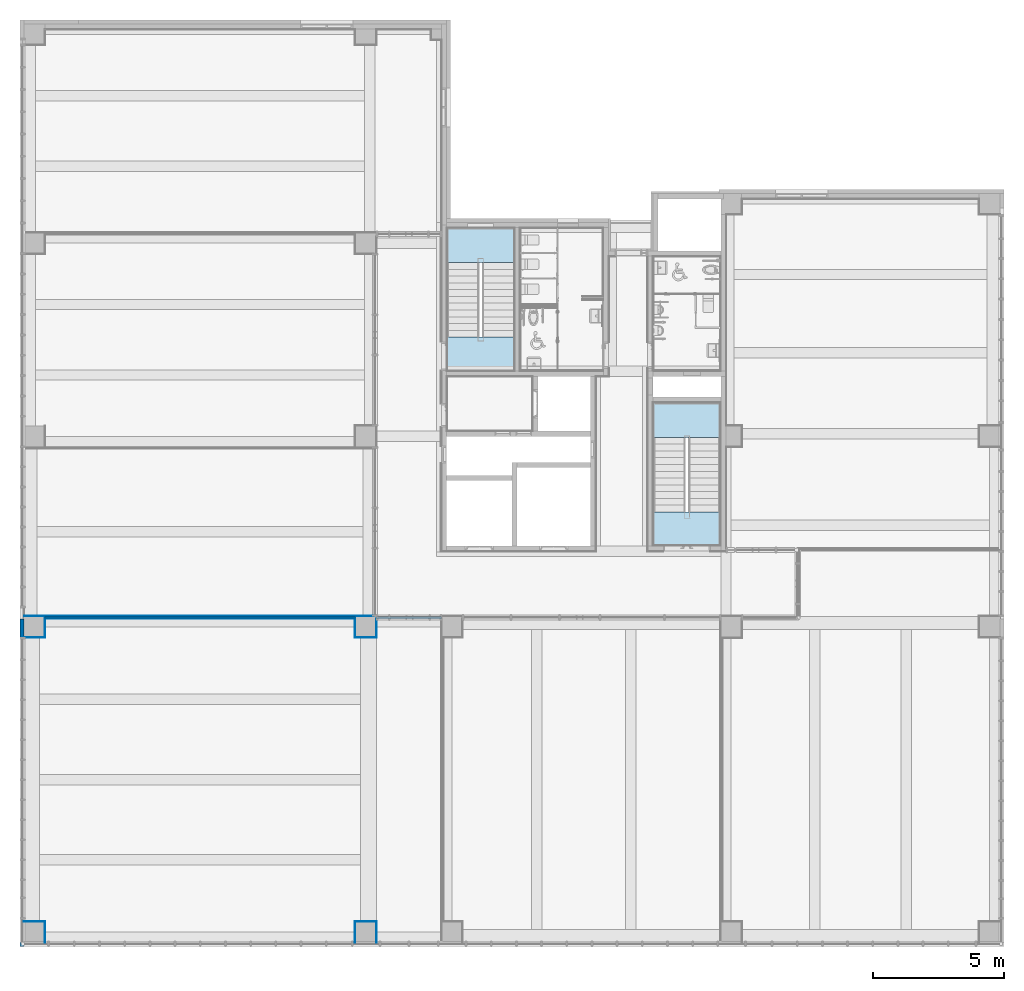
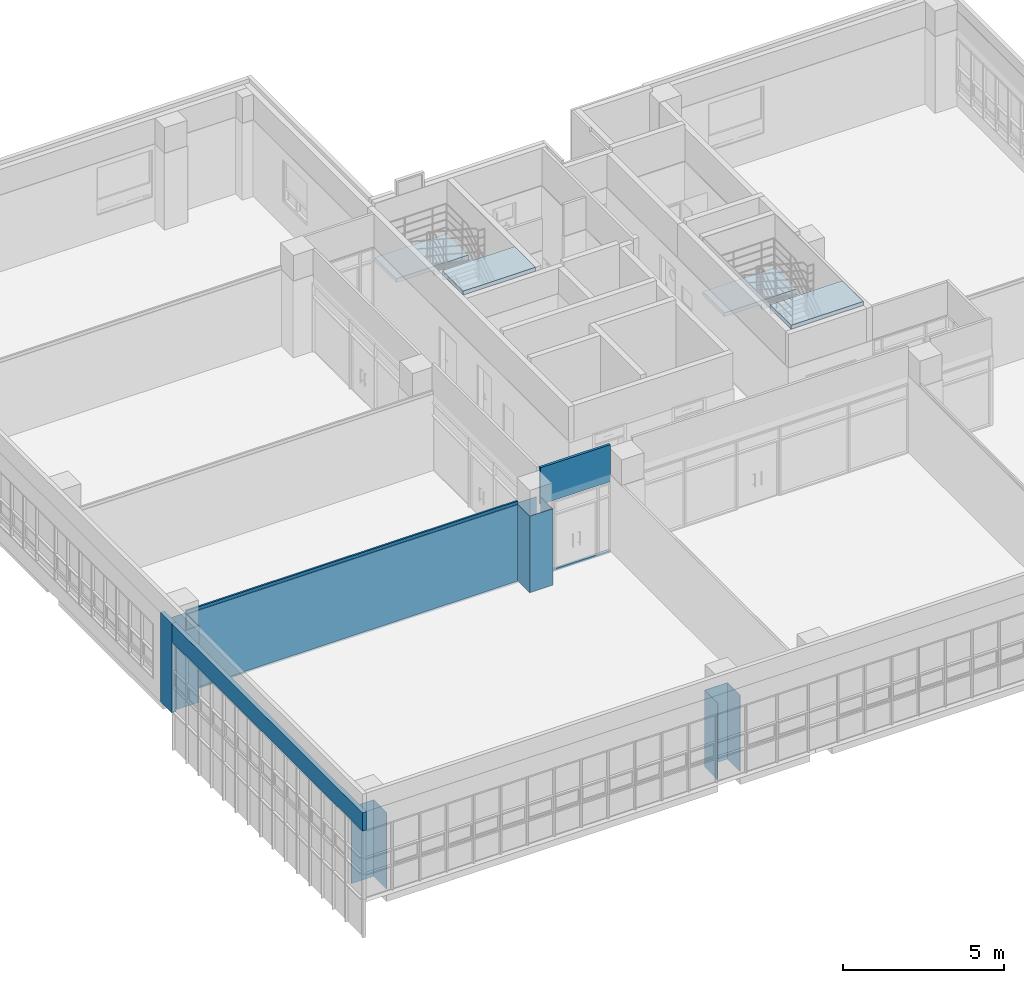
# One storey, part 42 of 81: 16 walls, 4 slabs, 1 opening, 2 elements without a shape of their own.
"""IFC2X3 building model written with IfcOpenShell, lengths in millimetres."""

from ifc_helpers import new_model, entity, si_unit, converted_unit, derived_unit, direction, frame, frame_2d, origin, place, context, subcontext, project, spatial, rectangle, extrude, faceted_brep, material, layer, layer_set, layer_usage, type_object, element, aggregate, save


model = new_model("IFC2X3")

# Units and contexts
model_context = context("Model", 3, precision=0.01, world=origin(), true_north=direction((6.123031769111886e-17, 1.0)))
body_context = subcontext(model_context, "Body", "Model", "MODEL_VIEW")
ifc_project = project(units=[si_unit("LENGTHUNIT", "METRE", prefix="MILLI"), si_unit("AREAUNIT", "SQUARE_METRE"), si_unit("VOLUMEUNIT", "CUBIC_METRE"), converted_unit("PLANEANGLEUNIT", "DEGREE", entity("IfcRatioMeasure", 0.017453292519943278), si_unit("PLANEANGLEUNIT", "RADIAN"), dimensions=[0, 0, 0, 0, 0, 0, 0]), si_unit("MASSUNIT", "GRAM", prefix="KILO"), derived_unit("MASSDENSITYUNIT", [(si_unit("MASSUNIT", "GRAM", prefix="KILO"), 1), (si_unit("LENGTHUNIT", "METRE"), -3)]), derived_unit("MOMENTOFINERTIAUNIT", [(si_unit("LENGTHUNIT", "METRE"), 4)]), si_unit("TIMEUNIT", "SECOND"), si_unit("FREQUENCYUNIT", "HERTZ"), si_unit("THERMODYNAMICTEMPERATUREUNIT", "DEGREE_CELSIUS"), derived_unit("THERMALTRANSMITTANCEUNIT", [(si_unit("MASSUNIT", "GRAM", prefix="KILO"), 1), (si_unit("THERMODYNAMICTEMPERATUREUNIT", "KELVIN"), -1), (si_unit("TIMEUNIT", "SECOND"), -3)]), derived_unit("VOLUMETRICFLOWRATEUNIT", [(si_unit("LENGTHUNIT", "METRE"), 3), (si_unit("TIMEUNIT", "SECOND"), -1)]), derived_unit("MASSFLOWRATEUNIT", [(si_unit("MASSUNIT", "GRAM", prefix="KILO"), 1), (si_unit("TIMEUNIT", "SECOND"), -1)]), derived_unit("ROTATIONALFREQUENCYUNIT", [(si_unit("TIMEUNIT", "SECOND"), -1)]), si_unit("ELECTRICCURRENTUNIT", "AMPERE"), si_unit("ELECTRICVOLTAGEUNIT", "VOLT"), si_unit("POWERUNIT", "WATT"), si_unit("FORCEUNIT", "NEWTON", prefix="KILO"), si_unit("ILLUMINANCEUNIT", "LUX"), si_unit("LUMINOUSFLUXUNIT", "LUMEN"), si_unit("LUMINOUSINTENSITYUNIT", "CANDELA"), derived_unit("USERDEFINED", [(si_unit("MASSUNIT", "GRAM", prefix="KILO"), -1), (si_unit("LENGTHUNIT", "METRE"), -2), (si_unit("TIMEUNIT", "SECOND"), 3), (si_unit("LUMINOUSFLUXUNIT", "LUMEN"), 1)]), derived_unit("SOUNDPOWERUNIT", [(si_unit("MASSUNIT", "GRAM", prefix="KILO"), 1), (si_unit("LENGTHUNIT", "METRE"), 2), (si_unit("TIMEUNIT", "SECOND"), -3)]), derived_unit("SOUNDPRESSUREUNIT", [(si_unit("MASSUNIT", "GRAM", prefix="KILO"), 1), (si_unit("LENGTHUNIT", "METRE"), -1), (si_unit("TIMEUNIT", "SECOND"), -2)]), derived_unit("LINEARVELOCITYUNIT", [(si_unit("LENGTHUNIT", "METRE"), 1), (si_unit("TIMEUNIT", "SECOND"), -1)]), si_unit("PRESSUREUNIT", "PASCAL"), derived_unit("USERDEFINED", [(si_unit("LENGTHUNIT", "METRE"), -2), (si_unit("MASSUNIT", "GRAM", prefix="KILO"), 1), (si_unit("TIMEUNIT", "SECOND"), -2)]), derived_unit("LINEARFORCEUNIT", [(si_unit("MASSUNIT", "GRAM", prefix="KILO"), 1), (si_unit("LENGTHUNIT", "METRE"), 1), (si_unit("TIMEUNIT", "SECOND"), -2), (si_unit("LENGTHUNIT", "METRE"), -1)]), derived_unit("PLANARFORCEUNIT", [(si_unit("MASSUNIT", "GRAM", prefix="KILO"), 1), (si_unit("LENGTHUNIT", "METRE"), 1), (si_unit("TIMEUNIT", "SECOND"), -2), (si_unit("LENGTHUNIT", "METRE"), -2)])], contexts=[model_context])

# Site, building, storey
site_placement = place(None, frame((-14167.972527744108, -657.2125860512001, 0.0)))
site = spatial("IfcSite", under=ifc_project, at=site_placement, Name="Default", CompositionType="ELEMENT")
building_placement = place(site_placement, origin())
building = spatial("IfcBuilding", under=site, at=building_placement, Name="Sample Building", CompositionType="ELEMENT")
storey_placement = place(building_placement, frame((0.0, 0.0, 13400.0)))
storey = spatial("IfcBuildingStorey", under=building, at=storey_placement, Name="지상 4층", CompositionType="ELEMENT", Elevation=13400.00000000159)

# Stair, slabs
stair_1_placement = place(storey_placement, origin())
stair_1 = element("IfcStair", 1, at=stair_1_placement, inside=storey, Name="현장타설 계단:계단", ObjectType="현장타설 계단:ST111-철근콘크리트구조 계단 (U형)", ShapeType="NOTDEFINED")
ifc_material_1 = material(Name="KBIMS-콘크리트")
slab_type_1 = type_object("IfcSlabType", Name="일체형 계단참:일체형 계단참 150mm_철근콘크리트", PredefinedType="LANDING")
slab_1_placement = place(stair_1_placement, frame((30266.12581445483, 26617.1433876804, 0.0)))
slab_1 = element("IfcSlab", 2, at=slab_1_placement, type_object=slab_type_1, material=ifc_material_1, Name="현장타설 계단:계단:5315106 Landing 1", ObjectType="일체형 계단참:일체형 계단참 150mm_철근콘크리트", PredefinedType="LANDING", context=body_context, shape_type="Brep", body=[
    faceted_brep([(1349.9912185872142, 0.03440560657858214, 2050.0), (2600.0, 0.03440560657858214, 2050.0), (2600.0, 304.9038523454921, 2050.0), (2600.0, 1340.0689203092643, 2050.0), (0.0, 1340.0689203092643, 2050.0), (0.0, 0.0, 2050.0), (1249.9990872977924, 0.0, 2050.0), (2600.0, 1340.0689203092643, 1900.0), (0.0, 1340.0689203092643, 1900.0), (0.0, 0.0, 1900.0), (1249.9990872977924, 0.0, 1900.0), (1349.9912185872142, 0.03440560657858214, 1900.0), (2600.0, 304.9038523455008, 1900.0), (1349.9912185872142, 304.9038523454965, 1900.0), (2600.0, 0.03440560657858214, 1699.6851396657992), (1349.9912185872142, 0.03440560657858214, 1699.6851396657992), (1349.9912185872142, 0.03440560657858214, 1879.1666671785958), (2600.0, 0.03440560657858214, 1879.1666671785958)], [[[0, 1, 2, 3, 4, 5, 6]], [[4, 3, 7, 8]], [[5, 4, 8, 9]], [[0, 6, 10, 11]], [[12, 13, 11, 10, 9, 8, 7]], [[13, 12, 14, 15]], [[11, 13, 15, 16]], [[1, 0, 11, 16, 15, 14, 17]], [[1, 17, 14, 12, 7, 3, 2]], [[6, 5, 9, 10]]]),
])
slab_type_2 = type_object("IfcSlabType", Name="일체형 계단참:일체형 계단참 150mm_철근콘크리트", PredefinedType="LANDING")
slab_2_placement = place(stair_1_placement, frame((30266.125814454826, 22457.21245198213, 0.0)))
slab_2 = element("IfcSlab", 3, at=slab_2_placement, type_object=slab_type_2, material=ifc_material_1, Name="현장타설 계단:계단:5315106 Landing 2", ObjectType="일체형 계단참:일체형 계단참 150mm_철근콘크리트", PredefinedType="LANDING", context=body_context, shape_type="Brep", body=[
    faceted_brep([(1249.9990872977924, 1299.9309356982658, 4100.0), (0.0, 1299.9309356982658, 4100.0), (0.0, 995.0614889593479, 4100.0), (0.0, 0.0, 4100.0), (2600.0, 0.0, 4100.0), (2600.0, 1299.9309356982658, 4100.0), (2600.0, 0.0, 3950.0), (2600.0, 1299.9309356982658, 3950.0), (0.0, 1299.9309356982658, 3929.1666677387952), (0.0, 1299.9309356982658, 3749.685140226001), (0.0, 995.0614889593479, 3950.0), (0.0, 0.0, 3950.0), (1249.9990872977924, 995.0614889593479, 3950.0), (1249.9990872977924, 1299.9309356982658, 3950.0), (1249.9990872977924, 1299.9309356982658, 3929.1666677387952), (1249.9990872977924, 1299.9309356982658, 3749.6851402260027)], [[[0, 1, 2, 3, 4, 5]], [[5, 4, 6, 7]], [[1, 8, 9, 10, 11, 3, 2]], [[4, 3, 11, 6]], [[10, 12, 13, 7, 6, 11]], [[1, 0, 13, 14, 15, 9, 8]], [[0, 5, 7, 13]], [[12, 10, 9, 15]], [[13, 12, 15, 14]]]),
])
aggregate(stair_1, [slab_1, slab_2])

stair_2_placement = place(storey_placement, origin())
stair_2 = element("IfcStair", 4, at=stair_2_placement, inside=storey, Name="현장타설 계단:계단", ObjectType="현장타설 계단:ST111-철근콘크리트구조 계단 (U형)", ShapeType="NOTDEFINED")
slab_type_3 = type_object("IfcSlabType", Name="일체형 계단참:일체형 계단참 150mm_철근콘크리트", PredefinedType="LANDING")
slab_3_placement = place(stair_2_placement, frame((38165.986986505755, 19917.143384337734, 0.0)))
slab_3 = element("IfcSlab", 5, at=slab_3_placement, type_object=slab_type_3, material=ifc_material_1, Name="현장타설 계단:계단:5315424 Landing 1", ObjectType="일체형 계단참:일체형 계단참 150mm_철근콘크리트", PredefinedType="LANDING", context=body_context, shape_type="Brep", body=[
    faceted_brep([(1349.9912185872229, 0.034405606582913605, 2050.0), (2600.0, 0.034405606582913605, 2050.0), (2600.0, 304.9038523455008, 2050.0), (2600.0, 1340.0689203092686, 2050.0), (0.0, 1340.0689203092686, 2050.0), (0.0, 0.0, 2050.0), (1249.9990872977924, 0.0, 2050.0), (2600.0, 1340.0689203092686, 1900.0), (0.0, 1340.0689203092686, 1900.0), (0.0, 0.0, 1900.0), (1249.9990872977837, 0.0, 1900.0), (1349.9912185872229, 0.034405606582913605, 1900.0), (2600.0, 304.90385234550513, 1900.0), (1349.9912185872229, 304.9038523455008, 1900.0), (2600.0, 0.034405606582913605, 1699.6851396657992), (1349.9912185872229, 0.034405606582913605, 1699.6851396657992), (1349.9912185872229, 0.034405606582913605, 1879.1666671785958), (2600.0, 0.034405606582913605, 1879.1666671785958)], [[[0, 1, 2, 3, 4, 5, 6]], [[4, 3, 7, 8]], [[5, 4, 8, 9]], [[0, 6, 10, 11]], [[12, 13, 11, 10, 9, 8, 7]], [[13, 12, 14, 15]], [[11, 13, 15, 16]], [[1, 0, 11, 16, 15, 14, 17]], [[1, 17, 14, 12, 7, 3, 2]], [[6, 5, 9, 10]]]),
])
slab_type_4 = type_object("IfcSlabType", Name="일체형 계단참:일체형 계단참 150mm_철근콘크리트", PredefinedType="LANDING")
slab_4_placement = place(stair_2_placement, frame((38165.986986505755, 15757.21244863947, 0.0)))
slab_4 = element("IfcSlab", 6, at=slab_4_placement, type_object=slab_type_4, material=ifc_material_1, Name="현장타설 계단:계단:5315424 Landing 2", ObjectType="일체형 계단참:일체형 계단참 150mm_철근콘크리트", PredefinedType="LANDING", context=body_context, shape_type="Brep", body=[
    faceted_brep([(1249.9990872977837, 1299.9309356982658, 4100.0), (0.0, 1299.9309356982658, 4100.0), (0.0, 995.0614889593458, 4100.0), (0.0, 0.0, 4100.0), (2600.0, 0.0, 4100.0), (2600.0, 1299.9309356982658, 4100.0), (2600.0, 0.0, 3950.0), (2600.0, 1299.9309356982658, 3950.0), (0.0, 1299.9309356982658, 3929.1666677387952), (0.0, 1299.9309356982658, 3749.6851402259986), (0.0, 995.0614889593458, 3950.0), (0.0, 0.0, 3950.0), (1249.9990872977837, 995.0614889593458, 3950.0), (1249.9990872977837, 1299.9309356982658, 3950.0), (1249.9990872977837, 1299.9309356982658, 3929.1666677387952), (1249.9990872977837, 1299.9309356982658, 3749.6851402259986)], [[[0, 1, 2, 3, 4, 5]], [[5, 4, 6, 7]], [[1, 8, 9, 10, 11, 3, 2]], [[4, 3, 11, 6]], [[10, 12, 13, 7, 6, 11]], [[1, 0, 13, 14, 15, 9, 8]], [[0, 5, 7, 13]], [[12, 10, 9, 15]], [[13, 12, 15, 14]]]),
])
aggregate(stair_2, [slab_3, slab_4])

# Walls
ifc_material_2 = material(Name="KBIMS-DRY WALL")
ifc_layer_1 = layer(ifc_material_2, 12.5)
ifc_material_3 = material(Name="KBIMS-경량철골벽틀")
ifc_layer_2 = layer(ifc_material_3, 50.0)
ifc_layer_set_1 = layer_set([ifc_layer_1, ifc_layer_2], Name="기본 벽:WA731-DRY WALL(C50, GS12.5mm) (1겹한면, GW50mm) 62.5mm")
ifc_layer_usage_1 = layer_usage(ifc_layer_set_1, "AXIS2", "NEGATIVE", 31.250000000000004)
wall_type_1 = type_object("IfcWallType", Name="기본 벽:WA731-DRY WALL(C50, GS12.5mm) (1겹한면, GW50mm) 62.5mm", PredefinedType="STANDARD", material=ifc_layer_set_1)
wall_1_placement = place(storey_placement, frame((14867.955105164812, 13025.961898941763, -2.297844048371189e-09)))
element("IfcWallStandardCase", 7, at=wall_1_placement, inside=storey, type_object=wall_type_1, material=ifc_layer_usage_1, Name="기본 벽:WA731-DRY WALL(C50, GS12.5mm) (1겹한면, GW50mm) 62.5mm", ObjectType="기본 벽:WA731-DRY WALL(C50, GS12.5mm) (1겹한면, GW50mm) 62.5mm", context=body_context, shape_type="SweptSolid", body=[
    extrude(rectangle(XDim=11900.000000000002, YDim=62.50000000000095, at=frame_2d((5950.000000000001, -1.0675904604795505e-12), x_axis=(-1.0, 0.0))), origin(), (0.0, 0.0, 1.0), 3100.000000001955),
])
ifc_material_4 = material(Name="WA785-금속외장패널")
ifc_layer_3 = layer(ifc_material_4, 25.0)
ifc_material_5 = material(Name="WA793-금속 긴결철물 벽")
ifc_layer_4 = layer(ifc_material_5, 75.0)
ifc_material_6 = material(Name="WA821-압출스티로폼 벽 (본드붙임, 비중0.03) 50mm")
ifc_layer_5 = layer(ifc_material_6, 50.0)
ifc_layer_set_2 = layer_set([ifc_layer_3, ifc_layer_4, ifc_layer_5], Name="기본 벽:A2-26-01A-압출스티로폼, 금속 긴결철물, 금속외장패널 (150mm)")
ifc_layer_usage_2 = layer_usage(ifc_layer_set_2, "AXIS2", "POSITIVE", -75.0)
wall_type_2 = type_object("IfcWallType", Name="기본 벽:A2-26-01A-압출스티로폼, 금속 긴결철물, 금속외장패널 (150mm)", PredefinedType="STANDARD", material=ifc_layer_set_2)
wall_2_placement = place(storey_placement, frame((13992.955105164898, 12257.212586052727, 2700.0), z_axis=(0.0, 0.0, 1.0), x_axis=(0.0, -1.0, 0.0)))
element("IfcWallStandardCase", 8, at=wall_2_placement, inside=storey, type_object=wall_type_2, material=ifc_layer_usage_2, Name="기본 벽:A2-26-01A-압출스티로폼, 금속 긴결철물, 금속외장패널 (150mm)", ObjectType="기본 벽:A2-26-01A-압출스티로폼, 금속 긴결철물, 금속외장패널 (150mm)", context=body_context, shape_type="SweptSolid", body=[
    extrude(rectangle(XDim=11850.000290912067, YDim=150.00000000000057, at=frame_2d((5925.000145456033, 2.3447910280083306e-13), x_axis=(-1.0, 0.0))), origin(), (0.0, 0.0, 1.0), 699.999999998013),
])
ifc_layer_usage_3 = layer_usage(ifc_layer_set_2, "AXIS2", "POSITIVE", -75.0)
wall_3_placement = place(storey_placement, frame((13992.955105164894, 12957.177624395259, 0.0), z_axis=(0.0, 0.0, 1.0), x_axis=(0.0, -1.0, 0.0)))
element("IfcWallStandardCase", 9, at=wall_3_placement, inside=storey, type_object=wall_type_2, material=ifc_layer_usage_3, Name="기본 벽:A2-26-01A-압출스티로폼, 금속 긴결철물, 금속외장패널 (150mm)", ObjectType="기본 벽:A2-26-01A-압출스티로폼, 금속 긴결철물, 금속외장패널 (150mm)", context=body_context, shape_type="SweptSolid", body=[
    extrude(rectangle(XDim=699.9650383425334, YDim=150.00000000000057, at=frame_2d((349.9825191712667, 5.186961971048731e-13), x_axis=(-1.0, 0.0))), origin(), (0.0, 0.0, 1.0), 3399.999999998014),
])

# Wall, opening
ifc_material_7 = material(Name="KBIMS-시멘트 벽돌")
ifc_layer_6 = layer(ifc_material_7, 90.0)
ifc_layer_set_3 = layer_set([ifc_layer_6], Name="기본 벽:WA211-시멘트벽돌(일반) 벽 (0.5B) 90mm")
ifc_layer_usage_4 = layer_usage(ifc_layer_set_3, "AXIS2", "POSITIVE", -45.0)
wall_type_3 = type_object("IfcWallType", Name="기본 벽:WA211-시멘트벽돌(일반) 벽 (0.5B) 90mm", PredefinedType="STANDARD", material=ifc_layer_set_3)
wall_4_placement = place(storey_placement, frame((30067.95511434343, 13012.212307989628, 0.0), z_axis=(0.0, 0.0, 1.0), x_axis=(-1.0, 0.0, 0.0)))
wall_4 = element("IfcWallStandardCase", 10, at=wall_4_placement, inside=storey, type_object=wall_type_3, material=ifc_layer_usage_4, Name="기본 벽:WA211-시멘트벽돌(일반) 벽 (0.5B) 90mm", ObjectType="기본 벽:WA211-시멘트벽돌(일반) 벽 (0.5B) 90mm", context=body_context, shape_type="SweptSolid", body=[
    extrude(rectangle(XDim=2500.034656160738, YDim=89.99999999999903, at=frame_2d((1250.017328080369, 1.0835776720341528e-12), x_axis=(-1.0, 0.0))), origin(), (0.0, 0.0, 1.0), 4099.999999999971),
])
opening_placement = place(wall_4_placement, origin())
element("IfcOpeningElement", 11, at=opening_placement, cuts=wall_4, Name="기본 벽:WA211-시멘트벽돌(일반) 벽 (0.5B) 90mm", ObjectType="Opening", context=body_context, shape_type="SweptSolid", body=[
    extrude(rectangle(XDim=2619.9999999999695, YDim=2500.034692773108, at=frame_2d((1.1368683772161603e-12, 0.0), x_axis=(1.0, 0.0))), frame((1250.0173463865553, -197.39999999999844, 1390.0), z_axis=(0.0, 1.0, 0.0), x_axis=(0.0, 0.0, 1.0)), (0.0, 0.0, 1.0), 394.79999999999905),
])

# Walls
ifc_material_8 = material(Name="WA611-수성페인트 (내부) 벽 (3회)")
ifc_layer_7 = layer(ifc_material_8, 1.0)
ifc_material_9 = material(Name="WA551-시멘트모르타르 (내부) 벽 18mm")
ifc_layer_8 = layer(ifc_material_9, 16.0)
ifc_material_10 = material(Name="WA555-콘크리트면정리 벽 (내부)")
ifc_layer_9 = layer(ifc_material_10, 1.0)
ifc_layer_set_4 = layer_set([ifc_layer_7, ifc_layer_8, ifc_layer_9], Name="기본 벽:A1-32-06A-콘크리트면정리, 시멘트모르타르(미장용), 수성페인트(내부) (18mm)")
ifc_layer_usage_5 = layer_usage(ifc_layer_set_4, "AXIS2", "POSITIVE", -9.000000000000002)
wall_type_4 = type_object("IfcWallType", Name="기본 벽:A1-32-06A-콘크리트면정리, 시멘트모르타르(미장용), 수성페인트(내부) (18mm)", PredefinedType="STANDARD", material=ifc_layer_set_4)
wall_5_placement = place(storey_placement, frame((27478.332260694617, 13066.21189894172, 80.0), z_axis=(0.0, 0.0, 1.0), x_axis=(-1.0, 0.0, 0.0)))
element("IfcWallStandardCase", 12, at=wall_5_placement, inside=storey, type_object=wall_type_4, material=ifc_layer_usage_5, Name="기본 벽:A1-32-06A-콘크리트면정리, 시멘트모르타르(미장용), 수성페인트(내부) (18mm)", ObjectType="기본 벽:A1-32-06A-콘크리트면정리, 시멘트모르타르(미장용), 수성페인트(내부) (18mm)", context=body_context, shape_type="SweptSolid", body=[
    extrude(rectangle(XDim=13392.359689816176, YDim=18.00000000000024, at=frame_2d((6696.179844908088, -1.000088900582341e-12), x_axis=(-1.0, 0.0))), origin(), (0.0, 0.0, 1.0), 2899.999999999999),
])
ifc_layer_usage_6 = layer_usage(ifc_layer_set_4, "AXIS2", "POSITIVE", -9.000000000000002)
wall_6_placement = place(storey_placement, frame((14067.972472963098, 12248.211898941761, 80.0)))
element("IfcWallStandardCase", 13, at=wall_6_placement, inside=storey, type_object=wall_type_4, material=ifc_layer_usage_6, Name="기본 벽:A1-32-06A-콘크리트면정리, 시멘트모르타르(미장용), 수성페인트(내부) (18mm)", ObjectType="기본 벽:A1-32-06A-콘크리트면정리, 시멘트모르타르(미장용), 수성페인트(내부) (18mm)", context=body_context, shape_type="SweptSolid", body=[
    extrude(rectangle(XDim=818.0000000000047, YDim=18.00000000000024, at=frame_2d((409.00000000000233, -5.240252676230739e-14), x_axis=(-1.0, 0.0))), origin(), (0.0, 0.0, 1.0), 2899.999999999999),
])
ifc_layer_usage_7 = layer_usage(ifc_layer_set_4, "AXIS2", "POSITIVE", -9.000000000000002)
wall_7_placement = place(storey_placement, frame((14876.972472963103, 12257.21189894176, 80.0), z_axis=(0.0, 0.0, 1.0), x_axis=(0.0, 1.0, 0.0)))
element("IfcWallStandardCase", 14, at=wall_7_placement, inside=storey, type_object=wall_type_4, material=ifc_layer_usage_7, Name="기본 벽:A1-32-06A-콘크리트면정리, 시멘트모르타르(미장용), 수성페인트(내부) (18mm)", ObjectType="기본 벽:A1-32-06A-콘크리트면정리, 시멘트모르타르(미장용), 수성페인트(내부) (18mm)", context=body_context, shape_type="SweptSolid", body=[
    extrude(rectangle(XDim=737.4999999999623, YDim=18.000000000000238, at=frame_2d((368.7499999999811, 0.0), x_axis=(-1.0, 0.0))), origin(), (0.0, 0.0, 1.0), 2899.999999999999),
])
ifc_layer_usage_8 = layer_usage(ifc_layer_set_4, "AXIS2", "POSITIVE", -9.000000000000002)
wall_8_placement = place(storey_placement, frame((14885.972472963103, 12985.711898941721, 80.0)))
element("IfcWallStandardCase", 15, at=wall_8_placement, inside=storey, type_object=wall_type_4, material=ifc_layer_usage_8, Name="기본 벽:A1-32-06A-콘크리트면정리, 시멘트모르타르(미장용), 수성페인트(내부) (18mm)", ObjectType="기본 벽:A1-32-06A-콘크리트면정리, 시멘트모르타르(미장용), 수성페인트(내부) (18mm)", context=body_context, shape_type="SweptSolid", body=[
    extrude(rectangle(XDim=11882.000036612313, YDim=18.000000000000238, at=frame_2d((5941.000018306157, 0.0), x_axis=(-1.0, 0.0))), origin(), (0.0, 0.0, 1.0), 2899.999999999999),
])
ifc_layer_usage_9 = layer_usage(ifc_layer_set_4, "AXIS2", "POSITIVE", -9.000000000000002)
wall_9_placement = place(storey_placement, frame((26758.97250957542, 12976.711898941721, 80.0), z_axis=(0.0, 0.0, 1.0), x_axis=(0.0, -1.0, 0.0)))
element("IfcWallStandardCase", 16, at=wall_9_placement, inside=storey, type_object=wall_type_4, material=ifc_layer_usage_9, Name="기본 벽:A1-32-06A-콘크리트면정리, 시멘트모르타르(미장용), 수성페인트(내부) (18mm)", ObjectType="기본 벽:A1-32-06A-콘크리트면정리, 시멘트모르타르(미장용), 수성페인트(내부) (18mm)", context=body_context, shape_type="SweptSolid", body=[
    extrude(rectangle(XDim=737.4999999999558, YDim=18.00000000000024, at=frame_2d((368.7499999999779, -2.1662671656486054e-12), x_axis=(-1.0, 0.0))), origin(), (0.0, 0.0, 1.0), 2899.999999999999),
])
ifc_layer_usage_10 = layer_usage(ifc_layer_set_4, "AXIS2", "POSITIVE", -9.000000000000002)
wall_10_placement = place(storey_placement, frame((26767.972509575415, 12248.211898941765, 80.0)))
element("IfcWallStandardCase", 17, at=wall_10_placement, inside=storey, type_object=wall_type_4, material=ifc_layer_usage_10, Name="기본 벽:A1-32-06A-콘크리트면정리, 시멘트모르타르(미장용), 수성페인트(내부) (18mm)", ObjectType="기본 벽:A1-32-06A-콘크리트면정리, 시멘트모르타르(미장용), 수성페인트(내부) (18mm)", context=body_context, shape_type="SweptSolid", body=[
    extrude(rectangle(XDim=818.0000000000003, YDim=18.000000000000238, at=frame_2d((409.00000000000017, -2.0250467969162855e-13), x_axis=(-1.0, 0.0))), origin(), (0.0, 0.0, 1.0), 2899.999999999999),
])
ifc_layer_usage_11 = layer_usage(ifc_layer_set_4, "AXIS2", "POSITIVE", -9.000000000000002)
wall_11_placement = place(storey_placement, frame((27576.972509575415, 12257.211898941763, 80.0), z_axis=(0.0, 0.0, 1.0), x_axis=(0.0, 1.0, 0.0)))
element("IfcWallStandardCase", 18, at=wall_11_placement, inside=storey, type_object=wall_type_4, material=ifc_layer_usage_11, Name="기본 벽:A1-32-06A-콘크리트면정리, 시멘트모르타르(미장용), 수성페인트(내부) (18mm)", ObjectType="기본 벽:A1-32-06A-콘크리트면정리, 시멘트모르타르(미장용), 수성페인트(내부) (18mm)", context=body_context, shape_type="SweptSolid", body=[
    extrude(rectangle(XDim=710.0004090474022, YDim=18.00000000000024, at=frame_2d((355.0002045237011, -2.1662671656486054e-12), x_axis=(-1.0, 0.0))), origin(), (0.0, 0.0, 1.0), 2899.999999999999),
])
ifc_layer_usage_12 = layer_usage(ifc_layer_set_4, "AXIS2", "POSITIVE", -9.000000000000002)
wall_12_placement = place(storey_placement, frame((27576.955141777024, 557.211886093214, 80.0), z_axis=(0.0, 0.0, 1.0), x_axis=(0.0, 1.0, 0.0)))
element("IfcWallStandardCase", 19, at=wall_12_placement, inside=storey, type_object=wall_type_4, material=ifc_layer_usage_12, Name="기본 벽:A1-32-06A-콘크리트면정리, 시멘트모르타르(미장용), 수성페인트(내부) (18mm)", ObjectType="기본 벽:A1-32-06A-콘크리트면정리, 시멘트모르타르(미장용), 수성페인트(내부) (18mm)", context=body_context, shape_type="SweptSolid", body=[
    extrude(rectangle(XDim=818.0003090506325, YDim=18.00000000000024, at=frame_2d((409.00015452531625, -2.1662671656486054e-12), x_axis=(-1.0, 0.0))), origin(), (0.0, 0.0, 1.0), 2899.999999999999),
])
ifc_layer_usage_13 = layer_usage(ifc_layer_set_4, "AXIS2", "POSITIVE", -9.000000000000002)
wall_13_placement = place(storey_placement, frame((27567.955141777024, 1366.2121951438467, 80.0), z_axis=(0.0, 0.0, 1.0), x_axis=(-1.0, 0.0, 0.0)))
element("IfcWallStandardCase", 20, at=wall_13_placement, inside=storey, type_object=wall_type_4, material=ifc_layer_usage_13, Name="기본 벽:A1-32-06A-콘크리트면정리, 시멘트모르타르(미장용), 수성페인트(내부) (18mm)", ObjectType="기본 벽:A1-32-06A-콘크리트면정리, 시멘트모르타르(미장용), 수성페인트(내부) (18mm)", context=body_context, shape_type="SweptSolid", body=[
    extrude(rectangle(XDim=817.9826322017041, YDim=17.999999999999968, at=frame_2d((408.99131610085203, 1.3500311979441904e-13), x_axis=(-1.0, 0.0))), origin(), (0.0, 0.0, 1.0), 2899.999999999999),
])
ifc_layer_usage_14 = layer_usage(ifc_layer_set_4, "AXIS2", "POSITIVE", -9.000000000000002)
wall_14_placement = place(storey_placement, frame((26758.972509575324, 1357.2121951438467, 80.0), z_axis=(0.0, 0.0, 1.0), x_axis=(0.0, -1.0, 0.0)))
element("IfcWallStandardCase", 21, at=wall_14_placement, inside=storey, type_object=wall_type_4, material=ifc_layer_usage_14, Name="기본 벽:A1-32-06A-콘크리트면정리, 시멘트모르타르(미장용), 수성페인트(내부) (18mm)", ObjectType="기본 벽:A1-32-06A-콘크리트면정리, 시멘트모르타르(미장용), 수성페인트(내부) (18mm)", context=body_context, shape_type="SweptSolid", body=[
    extrude(rectangle(XDim=800.0003090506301, YDim=18.00000000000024, at=frame_2d((400.00015452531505, -2.1662671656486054e-12), x_axis=(-1.0, 0.0))), origin(), (0.0, 0.0, 1.0), 2899.999999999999),
])
ifc_layer_usage_15 = layer_usage(ifc_layer_set_4, "AXIS2", "POSITIVE", -9.000000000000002)
wall_15_placement = place(storey_placement, frame((14876.955123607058, 557.2118860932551, 80.0), z_axis=(0.0, 0.0, 1.0), x_axis=(0.0, 1.0, 0.0)))
element("IfcWallStandardCase", 22, at=wall_15_placement, inside=storey, type_object=wall_type_4, material=ifc_layer_usage_15, Name="기본 벽:A1-32-06A-콘크리트면정리, 시멘트모르타르(미장용), 수성페인트(내부) (18mm)", ObjectType="기본 벽:A1-32-06A-콘크리트면정리, 시멘트모르타르(미장용), 수성페인트(내부) (18mm)", context=body_context, shape_type="SweptSolid", body=[
    extrude(rectangle(XDim=818.0003090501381, YDim=18.000000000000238, at=frame_2d((409.00015452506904, 0.0), x_axis=(-1.0, 0.0))), origin(), (0.0, 0.0, 1.0), 2899.999999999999),
])
ifc_layer_usage_16 = layer_usage(ifc_layer_set_4, "AXIS2", "POSITIVE", -9.000000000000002)
wall_16_placement = place(storey_placement, frame((14867.955123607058, 1366.2121951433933, 80.0), z_axis=(0.0, 0.0, 1.0), x_axis=(-1.0, 0.0, 0.0)))
element("IfcWallStandardCase", 23, at=wall_16_placement, inside=storey, type_object=wall_type_4, material=ifc_layer_usage_16, Name="기본 벽:A1-32-06A-콘크리트면정리, 시멘트모르타르(미장용), 수성페인트(내부) (18mm)", ObjectType="기본 벽:A1-32-06A-콘크리트면정리, 시멘트모르타르(미장용), 수성페인트(내부) (18mm)", context=body_context, shape_type="SweptSolid", body=[
    extrude(rectangle(XDim=799.9825342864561, YDim=17.999999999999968, at=frame_2d((399.9912671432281, 1.199040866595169e-13), x_axis=(-1.0, 0.0))), origin(), (0.0, 0.0, 1.0), 2899.999999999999),
])

save(model, "model.ifc")
